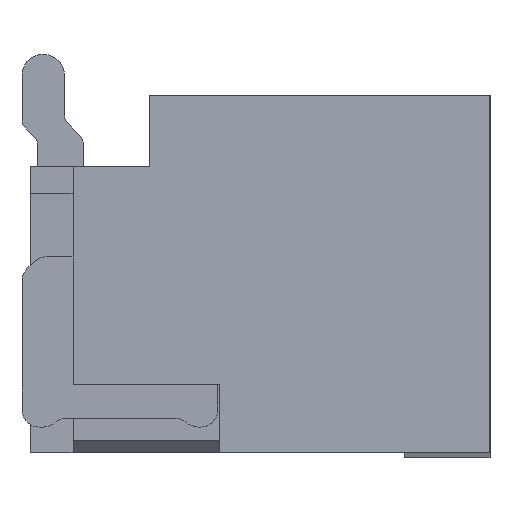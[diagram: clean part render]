
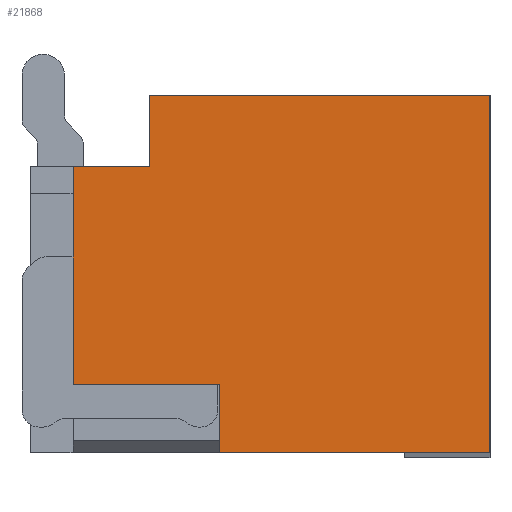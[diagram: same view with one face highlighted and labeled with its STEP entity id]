
A CAD part, left-side view. The second image highlights one B-rep face of the part: STEP entity #21868.
In plain terms, the highlighted planar face has unit normal (-1, 0, 0).
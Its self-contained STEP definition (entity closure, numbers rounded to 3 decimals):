
#425=DIRECTION('',(0.,0.,-1.));
#426=VECTOR('',#425,2.1);
#427=CARTESIAN_POINT('',(45.951,46.255,-2.015));
#428=LINE('',#427,#426);
#457=DIRECTION('',(0.,1.,0.));
#458=VECTOR('',#457,0.45);
#459=CARTESIAN_POINT('',(45.951,48.255,-2.435));
#460=LINE('',#459,#458);
#461=DIRECTION('',(0.,1.,0.));
#462=VECTOR('',#461,2.);
#463=CARTESIAN_POINT('',(45.951,46.255,-2.015));
#464=LINE('',#463,#462);
#465=DIRECTION('',(0.,0.,-1.));
#466=VECTOR('',#465,0.4);
#467=CARTESIAN_POINT('',(45.951,47.845,-3.715));
#468=LINE('',#467,#466);
#801=DIRECTION('',(0.,0.,1.));
#802=VECTOR('',#801,0.42);
#803=CARTESIAN_POINT('',(45.951,48.255,-2.435));
#804=LINE('',#803,#802);
#953=DIRECTION('',(0.,1.,0.));
#954=VECTOR('',#953,1.59);
#955=CARTESIAN_POINT('',(45.951,46.255,-4.115));
#956=LINE('',#955,#954);
#14803=DIRECTION('',(0.,0.,1.));
#14804=VECTOR('',#14803,1.28);
#14805=CARTESIAN_POINT('',(45.951,48.705,
-3.715));
#14806=LINE('',#14805,#14804);
#14901=DIRECTION('',(0.,1.,0.));
#14902=VECTOR('',#14901,0.86);
#14903=CARTESIAN_POINT('',(45.951,47.845,
-3.715));
#14904=LINE('',#14903,#14902);
#16371=CARTESIAN_POINT('',(45.951,48.705,
-2.435));
#16372=VERTEX_POINT('',#16371);
#16373=CARTESIAN_POINT('',(45.951,48.705,
-3.715));
#16374=VERTEX_POINT('',#16373);
#16799=CARTESIAN_POINT('',(45.951,48.255,
-2.015));
#16800=VERTEX_POINT('',#16799);
#16801=CARTESIAN_POINT('',(45.951,48.255,
-2.435));
#16802=VERTEX_POINT('',#16801);
#16803=CARTESIAN_POINT('',(45.951,47.845,
-3.715));
#16804=VERTEX_POINT('',#16803);
#16867=CARTESIAN_POINT('',(45.951,47.845,
-4.115));
#16868=VERTEX_POINT('',#16867);
#16987=CARTESIAN_POINT('',(45.951,46.255,
-2.015));
#16988=VERTEX_POINT('',#16987);
#16989=CARTESIAN_POINT('',(45.951,46.255,
-4.115));
#16990=VERTEX_POINT('',#16989);
#21847=CARTESIAN_POINT('',(45.951,75.644,
-2.446));
#21848=DIRECTION('',(-1.,0.,0.));
#21849=DIRECTION('',(0.,0.,1.));
#21850=AXIS2_PLACEMENT_3D('',#21847,#21848,#21849);
#21851=PLANE('',#21850);
#21853=ORIENTED_EDGE('',*,*,#21852,.F.);
#21855=ORIENTED_EDGE('',*,*,#21854,.T.);
#21856=ORIENTED_EDGE('',*,*,#21838,.F.);
#21857=ORIENTED_EDGE('',*,*,#21802,.T.);
#21859=ORIENTED_EDGE('',*,*,#21858,.T.);
#21861=ORIENTED_EDGE('',*,*,#21860,.F.);
#21863=ORIENTED_EDGE('',*,*,#21862,.T.);
#21865=ORIENTED_EDGE('',*,*,#21864,.T.);
#21866=EDGE_LOOP('',(#21853,#21855,#21856,#21857,#21859,#21861,#21863,#21865));
#21867=FACE_OUTER_BOUND('',#21866,.F.);
#21868=ADVANCED_FACE('',(#21867),#21851,.T.);
#21802=EDGE_CURVE('',#16988,#16990,#428,.T.);
#21838=EDGE_CURVE('',#16988,#16800,#464,.T.);
#21852=EDGE_CURVE('',#16802,#16372,#460,.T.);
#21854=EDGE_CURVE('',#16802,#16800,#804,.T.);
#21858=EDGE_CURVE('',#16990,#16868,#956,.T.);
#21860=EDGE_CURVE('',#16804,#16868,#468,.T.);
#21862=EDGE_CURVE('',#16804,#16374,#14904,.T.);
#21864=EDGE_CURVE('',#16374,#16372,#14806,.T.);
